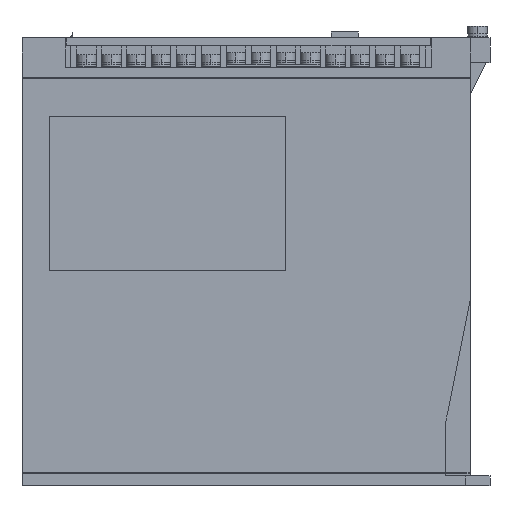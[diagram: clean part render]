
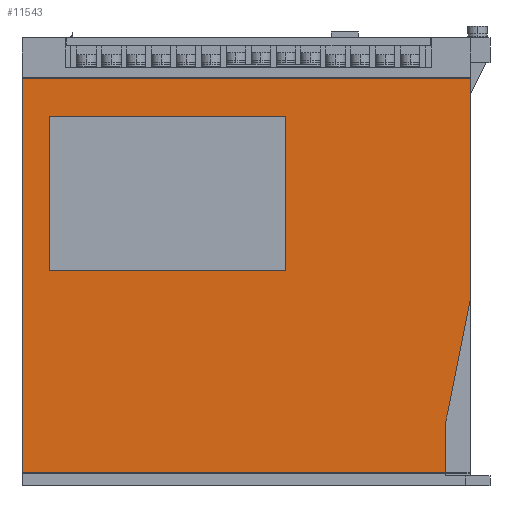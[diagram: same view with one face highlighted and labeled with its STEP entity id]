
A CAD part, left-side view. The second image highlights one B-rep face of the part: STEP entity #11543.
In plain terms, the highlighted planar face has unit normal (-1, 0, 0).
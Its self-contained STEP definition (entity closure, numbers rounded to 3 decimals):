
#5940 = VERTEX_POINT ( 'NONE', #31610 ) ;
#5944 = EDGE_CURVE ( 'NONE', #5940, #5946, #31605, .T. ) ;
#5946 = VERTEX_POINT ( 'NONE', #31666 ) ;
#10625 = EDGE_CURVE ( 'NONE', #5946, #10626, #39131, .T. ) ;
#10626 = VERTEX_POINT ( 'NONE', #39127 ) ;
#11415 = VERTEX_POINT ( 'NONE', #40359 ) ;
#11457 = EDGE_CURVE ( 'NONE', #5940, #11415, #40420, .T. ) ;
#11533 = ORIENTED_EDGE ( 'NONE', *, *, #5944, .F. ) ;
#11535 = ORIENTED_EDGE ( 'NONE', *, *, #11457, .T. ) ;
#11543 = ADVANCED_FACE ( 'NONE', ( #40556, #40555 ), #40554, .F. ) ;
#11544 = EDGE_LOOP ( 'NONE', ( #11546, #11552, #11557, #11563 ) ) ;
#11546 = ORIENTED_EDGE ( 'NONE', *, *, #11547, .F. ) ;
#11547 = EDGE_CURVE ( 'NONE', #11549, #11550, #40549, .T. ) ;
#11549 = VERTEX_POINT ( 'NONE', #40545 ) ;
#11550 = VERTEX_POINT ( 'NONE', #40544 ) ;
#11552 = ORIENTED_EDGE ( 'NONE', *, *, #11554, .F. ) ;
#11554 = EDGE_CURVE ( 'NONE', #11555, #11549, #40543, .T. ) ;
#11555 = VERTEX_POINT ( 'NONE', #40539 ) ;
#11557 = ORIENTED_EDGE ( 'NONE', *, *, #11560, .F. ) ;
#11560 = EDGE_CURVE ( 'NONE', #11561, #11555, #40532, .T. ) ;
#11561 = VERTEX_POINT ( 'NONE', #40594 ) ;
#11563 = ORIENTED_EDGE ( 'NONE', *, *, #11565, .F. ) ;
#11565 = EDGE_CURVE ( 'NONE', #11550, #11561, #40593, .T. ) ;
#11567 = EDGE_LOOP ( 'NONE', ( #11594, #11601, #11606, #11610, #11533, #11535 ) ) ;
#11594 = ORIENTED_EDGE ( 'NONE', *, *, #11596, .T. ) ;
#11596 = EDGE_CURVE ( 'NONE', #11415, #11598, #40612, .T. ) ;
#11598 = VERTEX_POINT ( 'NONE', #40608 ) ;
#11601 = ORIENTED_EDGE ( 'NONE', *, *, #11602, .F. ) ;
#11602 = EDGE_CURVE ( 'NONE', #11604, #11598, #40600, .T. ) ;
#11604 = VERTEX_POINT ( 'NONE', #40596 ) ;
#11606 = ORIENTED_EDGE ( 'NONE', *, *, #11609, .T. ) ;
#11609 = EDGE_CURVE ( 'NONE', #11604, #10626, #40661, .T. ) ;
#11610 = ORIENTED_EDGE ( 'NONE', *, *, #10625, .F. ) ;
#31601 = DIRECTION ( 'NONE',  ( 0., -1., 0. ) ) ;
#31602 = VECTOR ( 'NONE', #31601, 1000. ) ;
#31603 = CARTESIAN_POINT ( 'NONE',  ( -95., 5., 163.8 ) ) ;
#31605 = LINE ( 'NONE', #31603, #31602 ) ;
#31610 = CARTESIAN_POINT ( 'NONE',  ( -95., 5., 163.8 ) ) ;
#31666 = CARTESIAN_POINT ( 'NONE',  ( -95., -175., 163.8 ) ) ;
#39127 = CARTESIAN_POINT ( 'NONE',  ( -95., -175., 74.4 ) ) ;
#39128 = DIRECTION ( 'NONE',  ( 0., 0., -1. ) ) ;
#39129 = VECTOR ( 'NONE', #39128, 1000. ) ;
#39130 = CARTESIAN_POINT ( 'NONE',  ( -95., -175., 369.913 ) ) ;
#39131 = LINE ( 'NONE', #39130, #39129 ) ;
#40359 = CARTESIAN_POINT ( 'NONE',  ( -95., 5., 5.2 ) ) ;
#40417 = DIRECTION ( 'NONE',  ( 0., 0., -1. ) ) ;
#40418 = VECTOR ( 'NONE', #40417, 1000. ) ;
#40419 = CARTESIAN_POINT ( 'NONE',  ( -95., 5., 369.913 ) ) ;
#40420 = LINE ( 'NONE', #40419, #40418 ) ;
#40530 = VECTOR ( 'NONE', #40595, 1000. ) ;
#40531 = CARTESIAN_POINT ( 'NONE',  ( -95., -6., 86.5 ) ) ;
#40532 = LINE ( 'NONE', #40531, #40530 ) ;
#40539 = CARTESIAN_POINT ( 'NONE',  ( -95., -6., 86.5 ) ) ;
#40540 = DIRECTION ( 'NONE',  ( 0., -1., 0. ) ) ;
#40541 = VECTOR ( 'NONE', #40540, 1000. ) ;
#40542 = CARTESIAN_POINT ( 'NONE',  ( -95., -6., 86.5 ) ) ;
#40543 = LINE ( 'NONE', #40542, #40541 ) ;
#40544 = CARTESIAN_POINT ( 'NONE',  ( -95., -101., 148.5 ) ) ;
#40545 = CARTESIAN_POINT ( 'NONE',  ( -95., -101., 86.5 ) ) ;
#40546 = DIRECTION ( 'NONE',  ( 0., 0., 1. ) ) ;
#40547 = VECTOR ( 'NONE', #40546, 1000. ) ;
#40548 = CARTESIAN_POINT ( 'NONE',  ( -95., -101., 86.5 ) ) ;
#40549 = LINE ( 'NONE', #40548, #40547 ) ;
#40550 = DIRECTION ( 'NONE',  ( 0., 0., -1. ) ) ;
#40551 = DIRECTION ( 'NONE',  ( 1., 0., 0. ) ) ;
#40552 = CARTESIAN_POINT ( 'NONE',  ( -95., 5., 369.913 ) ) ;
#40553 = AXIS2_PLACEMENT_3D ( 'NONE', #40552, #40551, #40550 ) ;
#40554 = PLANE ( 'NONE',  #40553 ) ;
#40555 = FACE_OUTER_BOUND ( 'NONE', #11567, .T. ) ;
#40556 = FACE_BOUND ( 'NONE', #11544, .T. ) ;
#40590 = DIRECTION ( 'NONE',  ( 0., 1., 0. ) ) ;
#40591 = VECTOR ( 'NONE', #40590, 1000. ) ;
#40592 = CARTESIAN_POINT ( 'NONE',  ( -95., -6., 148.5 ) ) ;
#40593 = LINE ( 'NONE', #40592, #40591 ) ;
#40594 = CARTESIAN_POINT ( 'NONE',  ( -95., -6., 148.5 ) ) ;
#40595 = DIRECTION ( 'NONE',  ( 0., 0., -1. ) ) ;
#40596 = CARTESIAN_POINT ( 'NONE',  ( -95., -165., 24.4 ) ) ;
#40597 = DIRECTION ( 'NONE',  ( 0., 0., -1. ) ) ;
#40598 = VECTOR ( 'NONE', #40597, 1000. ) ;
#40599 = CARTESIAN_POINT ( 'NONE',  ( -95., -165., 24.4 ) ) ;
#40600 = LINE ( 'NONE', #40599, #40598 ) ;
#40608 = CARTESIAN_POINT ( 'NONE',  ( -95., -165., 5.2 ) ) ;
#40609 = DIRECTION ( 'NONE',  ( 0., -1., 0. ) ) ;
#40610 = VECTOR ( 'NONE', #40609, 1000. ) ;
#40611 = CARTESIAN_POINT ( 'NONE',  ( -95., 5., 5.2 ) ) ;
#40612 = LINE ( 'NONE', #40611, #40610 ) ;
#40653 = DIRECTION ( 'NONE',  ( 0., -0.196, 0.981 ) ) ;
#40654 = VECTOR ( 'NONE', #40653, 1000. ) ;
#40655 = CARTESIAN_POINT ( 'NONE',  ( -95., -165., 24.4 ) ) ;
#40661 = LINE ( 'NONE', #40655, #40654 ) ;
